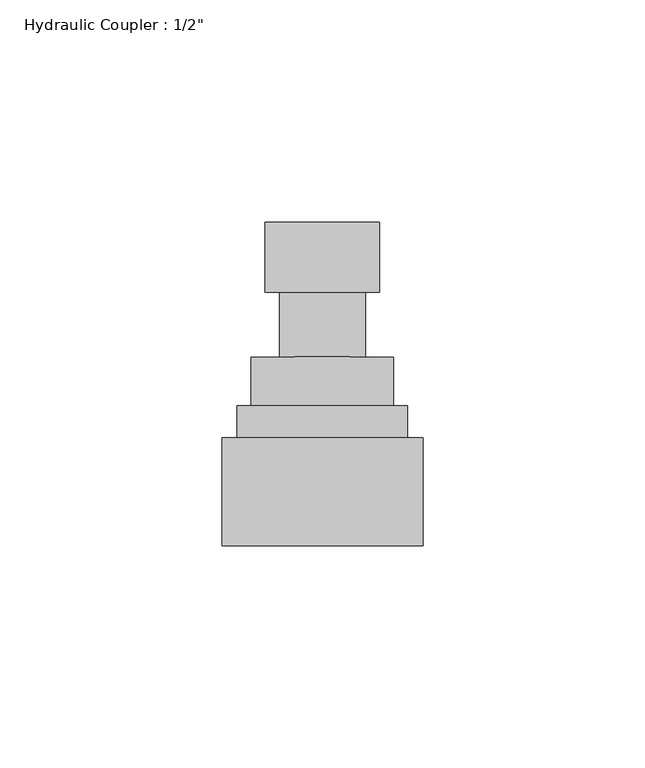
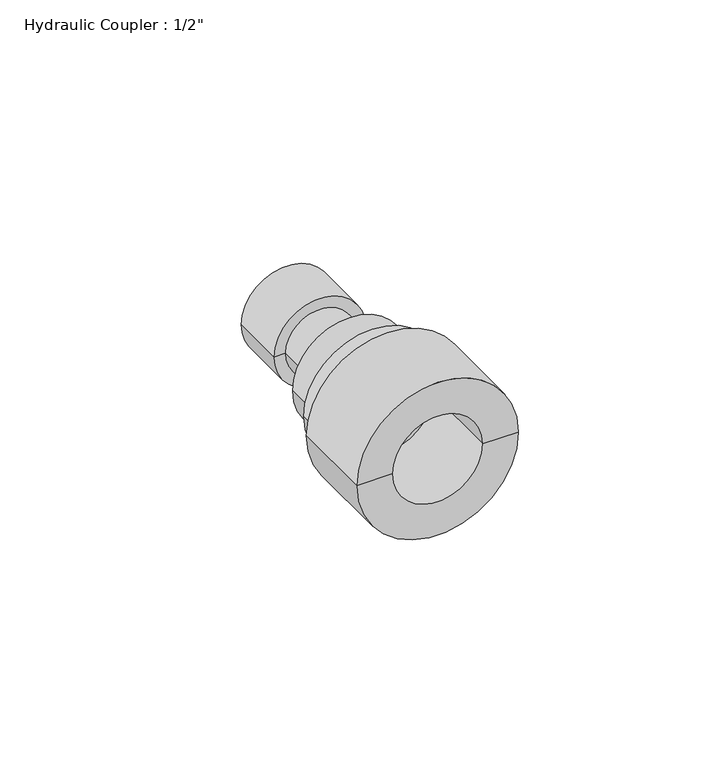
"""IFC4 building model written with IfcOpenShell, lengths in millimetres: valve geometry."""

import ifcopenshell
import ifcopenshell.guid

model = None  # the IFC model being written
_history = None  # IfcOwnerHistory: only IFC2X3 demands one
_inside = {}  # id of a spatial element -> (the spatial element, [elements in it])
_under = {}  # id of a project, library or spatial element -> (it, [spatial elements below it])
_declared = {}  # id of a project -> (the project, [libraries it declares])
_typed = {}  # id of a type object -> (the type object, [elements of that type])
_made_of = {}  # id of a material, layer set ... -> (it, [elements and type objects made of it])


def new_model(schema):
    """Start an empty IFC model of exactly this schema.

    Asked for "IFC4X3", IfcOpenShell would pick the latest addendum, in which some entities
    have other attributes; the version numbers below select the first issue.
    IFC2X3 requires an IfcOwnerHistory on every rooted entity: one is made here for all.
    """
    global model, _history
    if schema == "IFC4X3":
        model = ifcopenshell.file(schema_version=(4, 3, 0, 0))
    else:
        model = ifcopenshell.file(schema=schema)
    _inside.clear()
    _under.clear()
    _declared.clear()
    _typed.clear()
    _made_of.clear()
    _history = None
    if model.schema == "IFC2X3":
        org = make("IfcOrganization", Name="unknown")
        user = make(
            "IfcPersonAndOrganization",
            ThePerson=make("IfcPerson", FamilyName="unknown"),
            TheOrganization=org,
        )
        app = make(
            "IfcApplication",
            ApplicationDeveloper=org,
            Version="unknown",
            ApplicationFullName="unknown",
            ApplicationIdentifier="unknown",
        )
        _history = make(
            "IfcOwnerHistory",
            OwningUser=user,
            OwningApplication=app,
            ChangeAction="ADDED",
            CreationDate=0,
        )
    return model


def make(cls, **values):
    """One entity of the class cls with the attributes given. An attribute that is None is left unset."""
    return model.create_entity(
        cls, **{name: value for name, value in values.items() if value is not None}
    )


def rooted(cls, **values):
    """An entity with a GlobalId (a new one), such as an element, a storey or a relation."""
    return make(cls, GlobalId=ifcopenshell.guid.new(), OwnerHistory=_history, **values)


def si_unit(unit_type, name, prefix=None):
    """IfcSIUnit, for example si_unit("LENGTHUNIT", "METRE", prefix="MILLI")."""
    return make("IfcSIUnit", UnitType=unit_type, Prefix=prefix, Name=name)


def assignment(units):
    """IfcUnitAssignment: the units of a project."""
    return None if units is None else make("IfcUnitAssignment", Units=units)


def point(xyz):
    """IfcCartesianPoint."""
    return None if xyz is None else make("IfcCartesianPoint", Coordinates=xyz)


def direction(xyz):
    """IfcDirection."""
    return None if xyz is None else make("IfcDirection", DirectionRatios=xyz)


def frame(location, z_axis=None, x_axis=None):
    """IfcAxis2Placement3D, a coordinate frame: its origin and axes. An axis left out is left unset."""
    return make(
        "IfcAxis2Placement3D",
        Location=point(location),
        Axis=direction(z_axis),
        RefDirection=direction(x_axis),
    )


def origin():
    """The frame at (0, 0, 0) with its axes left unset."""
    return frame((0.0, 0.0, 0.0))


def place(relative_to, where):
    """IfcLocalPlacement: puts the frame where relative to a parent placement (None: the world)."""
    return make(
        "IfcLocalPlacement", PlacementRelTo=relative_to, RelativePlacement=where
    )


def context(
    kind, dimensions, precision=None, world=None, true_north=None, identifier=None
):
    """IfcGeometricRepresentationContext, for example the 3D "Model" context."""
    return make(
        "IfcGeometricRepresentationContext",
        ContextIdentifier=identifier,
        ContextType=kind,
        CoordinateSpaceDimension=dimensions,
        Precision=precision,
        WorldCoordinateSystem=world,
        TrueNorth=true_north,
    )


def project(units=None, contexts=None):
    """IfcProject with its units and contexts."""
    return rooted(
        "IfcProject",
        Name="project",
        RepresentationContexts=contexts,
        UnitsInContext=assignment(units),
    )


def spatial(cls, under=None, at=None, **own):
    """A site, building, storey or space (cls), placed at a placement, below another one or the project."""
    s = rooted(cls, ObjectPlacement=at, **own)
    if under is not None:
        _under.setdefault(under.id(), (under, []))[1].append(s)
    return s


def polyline(points):
    """IfcPolyline through the points."""
    return make("IfcPolyline", Points=[point(p) for p in points])


def circle_curve(where, radius):
    """IfcCircle in the frame where."""
    return make("IfcCircle", Position=where, Radius=radius)


def shape(context_of_items, identifier, shape_type, items):
    """IfcShapeRepresentation: the items that make up one representation, for example the "Body"."""
    return make(
        "IfcShapeRepresentation",
        ContextOfItems=context_of_items,
        RepresentationIdentifier=identifier,
        RepresentationType=shape_type,
        Items=items,
    )


def source(mapping_origin, context_of_items, identifier, shape_type, items):
    """IfcRepresentationMap: a shape defined once, which mapped items show again and again."""
    return make(
        "IfcRepresentationMap",
        MappingOrigin=mapping_origin,
        MappedRepresentation=shape(context_of_items, identifier, shape_type, items),
    )


def transform(
    local_origin,
    x_axis=None,
    y_axis=None,
    z_axis=None,
    scale=None,
    scale2=None,
    scale3=None,
    uniform=True,
):
    """IfcCartesianTransformationOperator3D, or its non-uniform kind. x_axis, y_axis, z_axis: its Axis1, 2, 3."""
    if uniform:
        return make(
            "IfcCartesianTransformationOperator3D",
            Axis1=direction(x_axis),
            Axis2=direction(y_axis),
            LocalOrigin=point(local_origin),
            Scale=scale,
            Axis3=direction(z_axis),
        )
    return make(
        "IfcCartesianTransformationOperator3DnonUniform",
        Axis1=direction(x_axis),
        Axis2=direction(y_axis),
        LocalOrigin=point(local_origin),
        Scale=scale,
        Axis3=direction(z_axis),
        Scale2=scale2,
        Scale3=scale3,
    )


def mapped(mapping_source, mapping_target):
    """IfcMappedItem: shows the shape of a source again, moved by a transform."""
    return make(
        "IfcMappedItem", MappingSource=mapping_source, MappingTarget=mapping_target
    )


def made_of(thing, what):
    """Note that an element or type object is made of a material, layer set ...; save() writes the relation."""
    if what is not None:
        _made_of.setdefault(what.id(), (what, []))[1].append(thing)
    return thing


def element(
    cls,
    number,
    at=None,
    inside=None,
    cuts=None,
    type_object=None,
    material=None,
    context=None,
    identifier="Body",
    shape_type=None,
    held_by="IfcProductDefinitionShape",
    body=None,
    shapes=None,
    **own,
):
    """One element of the class cls, such as IfcWall. Its Tag is "e" and its number.

    at: its placement. inside: the storey or other place that contains it. cuts: it is an
    opening in that element (IfcRelVoidsElement). A single representation is given by context,
    identifier, shape_type and body (its items); several are given by shapes. held_by: the class
    of the entity that holds the representations. save() writes the other relations.
    """
    e = rooted(cls, Tag="e%d" % number, ObjectPlacement=at, **own)
    if body is not None:
        shapes = [shape(context, identifier, shape_type, body)]
    if shapes is not None:
        e.Representation = make(held_by, Representations=shapes)
    if inside is not None:
        _inside.setdefault(inside.id(), (inside, []))[1].append(e)
    if cuts is not None:
        rooted(
            "IfcRelVoidsElement", RelatingBuildingElement=cuts, RelatedOpeningElement=e
        )
    if type_object is not None:
        _typed.setdefault(type_object.id(), (type_object, []))[1].append(e)
    return made_of(e, material)


def aggregate(whole, parts):
    """IfcRelAggregates: a whole, such as a stair, and the parts it consists of."""
    return rooted("IfcRelAggregates", RelatingObject=whole, RelatedObjects=parts)


def save(model, path):
    """Write the relations noted so far, then the file.

    IfcRelAggregates (storeys below a building ...), IfcRelContainedInSpatialStructure (elements
    in a storey), IfcRelDefinesByType, IfcRelAssociatesMaterial and IfcRelDeclares: one each for
    every whole, place, type object, material and project.
    """
    for whole, parts in _under.values():
        aggregate(whole, parts)
    for where, things in _inside.values():
        rooted(
            "IfcRelContainedInSpatialStructure",
            RelatedElements=things,
            RelatingStructure=where,
        )
    for kind, things in _typed.values():
        rooted("IfcRelDefinesByType", RelatedObjects=things, RelatingType=kind)
    for what, things in _made_of.values():
        rooted("IfcRelAssociatesMaterial", RelatedObjects=things, RelatingMaterial=what)
    for by, libraries in _declared.values():
        rooted("IfcRelDeclares", RelatingContext=by, RelatedDefinitions=libraries)
    model.write(path)


def plane_surface(at):
    """IfcPlane: the flat surface through the origin of the frame at, square to its z axis."""
    return make("IfcPlane", Position=at)


def cylinder_surface(at, radius):
    """IfcCylindricalSurface: all points at the distance radius from the z axis of the frame at."""
    return make("IfcCylindricalSurface", Position=at, Radius=radius)


def revolved_surface(curve, axis_point, axis_direction):
    """IfcSurfaceOfRevolution: the curve turned about the line through axis_point along axis_direction."""
    return make(
        "IfcSurfaceOfRevolution",
        SweptCurve=make("IfcArbitraryOpenProfileDef", ProfileType="CURVE", Curve=curve),
        AxisPosition=make("IfcAxis1Placement", Location=point(axis_point), Axis=direction(axis_direction)),
    )


def advanced_brep(points, edges, surfaces, faces):
    """IfcAdvancedBrep: a solid bounded by faces that lie on surfaces and meet in shared edges.

    An edge is (start, end): straight between two places in points (the first is 0);
    or (start, end, curve); or (start, end, curve, False) where it runs against its curve.
    A face is (place in surfaces, loops), or (place, loops, False) where it looks against
    its surface's normal. A loop lists edges by number (the first is 1), with a minus sign
    where the edge is run from its end to its start. The first loop is the outer one.
    """
    corners = [point(p) for p in points]
    vertices = [make("IfcVertexPoint", VertexGeometry=c) for c in corners]
    made = []
    for start, end, *more in edges:
        made.append(
            make(
                "IfcEdgeCurve",
                EdgeStart=vertices[start],
                EdgeEnd=vertices[end],
                EdgeGeometry=more[0] if more else make("IfcPolyline", Points=[corners[start], corners[end]]),
                SameSense=more[1] if len(more) > 1 else True,
            )
        )
    hull = []
    for where, loops, *sense in faces:
        bounds = []
        for j, loop in enumerate(loops):
            ring = [make("IfcOrientedEdge", EdgeElement=made[abs(k) - 1], Orientation=k > 0) for k in loop]
            bounds.append(
                make(
                    "IfcFaceOuterBound" if j == 0 else "IfcFaceBound",
                    Bound=make("IfcEdgeLoop", EdgeList=ring),
                    Orientation=True,
                )
            )
        hull.append(make("IfcAdvancedFace", Bounds=bounds, FaceSurface=surfaces[where], SameSense=sense[0] if sense else True))
    return make("IfcAdvancedBrep", Outer=make("IfcClosedShell", CfsFaces=hull))


def valve_bf88ecfe(model_context):
    return source(origin(), model_context, "Body", "AdvancedBrep", [
        advanced_brep(
        [(-570.913492, -82.6248003, 0.0), (-558.0440943, -82.6248003, 0.0), (-545.1746966, -82.6248003, 0.0), (-570.913492, -98.4253862, 0.0), (-545.1746966, -98.4253862, 0.0), (-567.7245388, -98.4253862, 0.0), (-548.3636498, -98.4253862, 0.0), (-567.7245388, -113.0105425, 0.0), (-548.3636498, -113.0105425, 0.0), (-580.692492, -131.2419878, 0.0), (-577.263492, -131.2419878, 0.0), (-538.8246966, -131.2419878, 0.0), (-535.3956966, -131.2419878, 0.0), (-580.692492, -155.5505816, 0.0), (-535.3956966, -155.5505816, 0.0), (-570.7440943, -155.5505816, 0.0), (-545.3440943, -155.5505816, 0.0), (-574.0745388, -113.0105425, 0.0), (-542.0136498, -113.0105425, 0.0), (-574.0745388, -123.9494097, 0.0), (-542.0136498, -123.9494097, 0.0), (-577.263492, -123.9494097, 0.0), (-538.8246966, -123.9494097, 0.0), (-570.7440943, -131.2419878, 0.0), (-545.3440943, -131.2419878, 0.0), (-558.0440943, -131.2419878, 0.0)],
        [
            (0, 1),
            (1, 2),
            (2, 0, circle_curve(frame((-558.0440943, -82.6248003, 0.0), z_axis=(0.0, 1.0, 0.0), x_axis=(1.0, 0.0, 0.0)), 12.8693977)),
            (0, 2, circle_curve(frame((-558.0440943, -82.6248003, 0.0), z_axis=(0.0, 1.0, 0.0), x_axis=(1.0, 0.0, 0.0)), 12.8693977)),
            (3, 0),
            (2, 4),
            (4, 3, circle_curve(frame((-558.0440943, -98.4253862, 0.0), z_axis=(0.0, 1.0, 0.0), x_axis=(1.0, 0.0, 0.0)), 12.8693977)),
            (3, 4, circle_curve(frame((-558.0440943, -98.4253862, 0.0), z_axis=(0.0, 1.0, 0.0), x_axis=(1.0, 0.0, 0.0)), 12.8693977)),
            (5, 3),
            (4, 6),
            (6, 5, circle_curve(frame((-558.0440943, -98.4253862, 0.0), z_axis=(0.0, 1.0, 0.0), x_axis=(1.0, 0.0, 0.0)), 9.6804445)),
            (5, 6, circle_curve(frame((-558.0440943, -98.4253862, 0.0), z_axis=(0.0, 1.0, 0.0), x_axis=(1.0, 0.0, 0.0)), 9.6804445)),
            (7, 5),
            (6, 8),
            (8, 7, circle_curve(frame((-558.0440943, -113.0105425, 0.0), z_axis=(0.0, 1.0, 0.0), x_axis=(1.0, 0.0, 0.0)), 9.6804445)),
            (7, 8, circle_curve(frame((-558.0440943, -113.0105425, 0.0), z_axis=(0.0, 1.0, 0.0), x_axis=(1.0, 0.0, 0.0)), 9.6804445)),
            (9, 10),
            (10, 11, circle_curve(frame((-558.0440943, -131.2419878, 0.0), z_axis=(0.0, -1.0, 0.0), x_axis=(1.0, 0.0, 0.0)), 19.2193977)),
            (11, 12),
            (12, 9, circle_curve(frame((-558.0440943, -131.2419878, 0.0), z_axis=(0.0, 1.0, 0.0), x_axis=(1.0, 0.0, 0.0)), 22.6483977)),
            (11, 10, circle_curve(frame((-558.0440943, -131.2419878, 0.0), z_axis=(0.0, -1.0, 0.0), x_axis=(1.0, 0.0, 0.0)), 19.2193977)),
            (9, 12, circle_curve(frame((-558.0440943, -131.2419878, 0.0), z_axis=(0.0, 1.0, 0.0), x_axis=(1.0, 0.0, 0.0)), 22.6483977)),
            (13, 9),
            (12, 14),
            (14, 13, circle_curve(frame((-558.0440943, -155.5505816, 0.0), z_axis=(0.0, 1.0, 0.0), x_axis=(1.0, 0.0, 0.0)), 22.6483977)),
            (13, 14, circle_curve(frame((-558.0440943, -155.5505816, 0.0), z_axis=(0.0, 1.0, 0.0), x_axis=(1.0, 0.0, 0.0)), 22.6483977)),
            (15, 13),
            (14, 16),
            (16, 15, circle_curve(frame((-558.0440943, -155.5505816, 0.0), z_axis=(0.0, 1.0, 0.0), x_axis=(1.0, 0.0, 0.0)), 12.7)),
            (15, 16, circle_curve(frame((-558.0440943, -155.5505816, 0.0), z_axis=(0.0, 1.0, 0.0), x_axis=(1.0, 0.0, 0.0)), 12.7)),
            (17, 7),
            (8, 18),
            (18, 17, circle_curve(frame((-558.0440943, -113.0105425, 0.0), z_axis=(0.0, 1.0, 0.0), x_axis=(1.0, 0.0, 0.0)), 16.0304445)),
            (17, 18, circle_curve(frame((-558.0440943, -113.0105425, 0.0), z_axis=(0.0, 1.0, 0.0), x_axis=(1.0, 0.0, 0.0)), 16.0304445)),
            (19, 17),
            (18, 20),
            (20, 19, circle_curve(frame((-558.0440943, -123.9494097, 0.0), z_axis=(0.0, 1.0, 0.0), x_axis=(1.0, 0.0, 0.0)), 16.0304445)),
            (19, 20, circle_curve(frame((-558.0440943, -123.9494097, 0.0), z_axis=(0.0, 1.0, 0.0), x_axis=(1.0, 0.0, 0.0)), 16.0304445)),
            (21, 19),
            (20, 22),
            (22, 21, circle_curve(frame((-558.0440943, -123.9494097, 0.0), z_axis=(0.0, 1.0, 0.0), x_axis=(1.0, 0.0, 0.0)), 19.2193977)),
            (21, 22, circle_curve(frame((-558.0440943, -123.9494097, 0.0), z_axis=(0.0, 1.0, 0.0), x_axis=(1.0, 0.0, 0.0)), 19.2193977)),
            (10, 21),
            (22, 11),
            (23, 15),
            (16, 24),
            (24, 23, circle_curve(frame((-558.0440943, -131.2419878, 0.0), z_axis=(0.0, 1.0, 0.0), x_axis=(1.0, 0.0, 0.0)), 12.7)),
            (23, 24, circle_curve(frame((-558.0440943, -131.2419878, 0.0), z_axis=(0.0, 1.0, 0.0), x_axis=(1.0, 0.0, 0.0)), 12.7)),
            (25, 23),
            (24, 25),
        ],
        [
            plane_surface(frame((-558.0440943, -82.6248003, 0.0), z_axis=(0.0, 1.0, 0.0), x_axis=(1.0, 0.0, 0.0))),
            cylinder_surface(frame((-558.0440943, -155.5505816, 0.0), z_axis=(0.0, -1.0, 0.0), x_axis=(1.0, 0.0, 0.0)), 12.8693977),
            plane_surface(frame((-558.0440943, -98.4253862, 0.0), z_axis=(0.0, -1.0, 0.0), x_axis=(1.0, 0.0, 0.0))),
            cylinder_surface(frame((-558.0440943, -155.5505816, 0.0), z_axis=(0.0, -1.0, 0.0), x_axis=(1.0, 0.0, 0.0)), 9.6804445),
            plane_surface(frame((-558.0440943, -131.2419878, 0.0), z_axis=(0.0, 1.0, 0.0), x_axis=(1.0, 0.0, 0.0))),
            cylinder_surface(frame((-558.0440943, -155.5505816, 0.0), z_axis=(0.0, -1.0, 0.0), x_axis=(1.0, 0.0, 0.0)), 22.6483977),
            plane_surface(frame((-558.0440943, -155.5505816, 0.0), z_axis=(0.0, -1.0, 0.0), x_axis=(1.0, 0.0, 0.0))),
            plane_surface(frame((-558.0440943, -113.0105425, 0.0), z_axis=(0.0, 1.0, 0.0), x_axis=(1.0, 0.0, 0.0))),
            cylinder_surface(frame((-558.0440943, -155.5505816, 0.0), z_axis=(0.0, -1.0, 0.0), x_axis=(1.0, 0.0, 0.0)), 16.0304445),
            plane_surface(frame((-558.0440943, -123.9494097, 0.0), z_axis=(0.0, 1.0, 0.0), x_axis=(1.0, 0.0, 0.0))),
            cylinder_surface(frame((-558.0440943, -155.5505816, 0.0), z_axis=(0.0, -1.0, 0.0), x_axis=(1.0, 0.0, 0.0)), 19.2193977),
            revolved_surface(polyline([(-545.3440942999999, -155.5505816, 0.0), (-545.3440942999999, -131.2419878, 0.0)]), (-558.0440943, -155.5505816, 0.0), (0.0, -1.0, 0.0)),
            plane_surface(frame((-558.0440943, -131.2419878, 0.0), z_axis=(0.0, -1.0, 0.0), x_axis=(1.0, 0.0, 0.0))),
        ],
        [
            (0, [[1, 2, 3]]),
            (0, [[-2, -1, 4]]),
            (1, [[5, -3, 6, 7]]),
            (1, [[-6, -4, -5, 8]]),
            (2, [[9, -7, 10, 11]]),
            (2, [[-10, -8, -9, 12]]),
            (3, [[13, -11, 14, 15]]),
            (3, [[-14, -12, -13, 16]]),
            (4, [[17, 18, 19, 20]]),
            (4, [[-19, 21, -17, 22]]),
            (5, [[23, -20, 24, 25]]),
            (5, [[-24, -22, -23, 26]]),
            (6, [[27, -25, 28, 29]]),
            (6, [[-28, -26, -27, 30]]),
            (7, [[31, -15, 32, 33]]),
            (7, [[-32, -16, -31, 34]]),
            (8, [[35, -33, 36, 37]]),
            (8, [[-36, -34, -35, 38]]),
            (9, [[39, -37, 40, 41]]),
            (9, [[-40, -38, -39, 42]]),
            (10, [[43, -41, 44, -18]]),
            (10, [[-44, -42, -43, -21]]),
            (11, [[45, -29, 46, 47]]),
            (11, [[-46, -30, -45, 48]]),
            (12, [[49, -47, 50]]),
            (12, [[-50, -48, -49]]),
        ],
    ),
    ])


if __name__ == "__main__":
    model = new_model("IFC4")
    model_context = context("Model", 3, world=origin())
    ifc_project = project(units=[si_unit("LENGTHUNIT", "METRE", prefix="MILLI")], contexts=[model_context])
    site = spatial("IfcSite", under=ifc_project)
    building = spatial("IfcBuilding", under=site)
    placement = place(None, origin())
    valve_shape = valve_bf88ecfe(model_context)
    element("IfcValve", 1, ObjectType="Hydraulic Coupler : 1/2\"", at=placement, inside=building, context=model_context, shape_type="MappedRepresentation", body=[
        mapped(valve_shape, transform((0.0, 0.0, 0.0), x_axis=(1.0, 0.0, 0.0), y_axis=(0.0, 1.0, 0.0), z_axis=(0.0, 0.0, 1.0))),
    ])
    save(model, "model.ifc")
